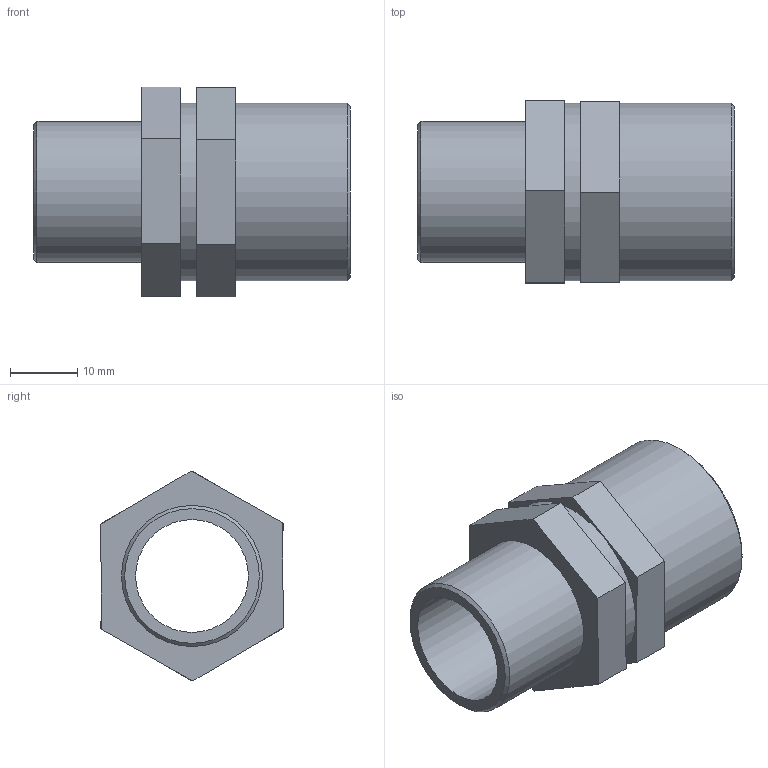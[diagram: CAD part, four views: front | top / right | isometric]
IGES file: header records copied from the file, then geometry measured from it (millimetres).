
Global section: file name: 050605007005_0506050070050A.ipt; native system: Autodesk Inventor 2015; preprocessor: unknown; author: KIM; date: 20170618.093223; units: millimetre
Bounding box: 47 x 27.14 x 31.18 mm (x, y, z)
Volume: 9817.5 mm3; surface area: 7516.8 mm2
Topology: 1 solids, 1 shells, 26 faces, 59 edges, 40 vertices
Faces by surface type: plane 19, cylinder 3, cone 2, revolution 2
Full cylindrical faces by diameter (mm): 20.955 x1, 26.441 x2
